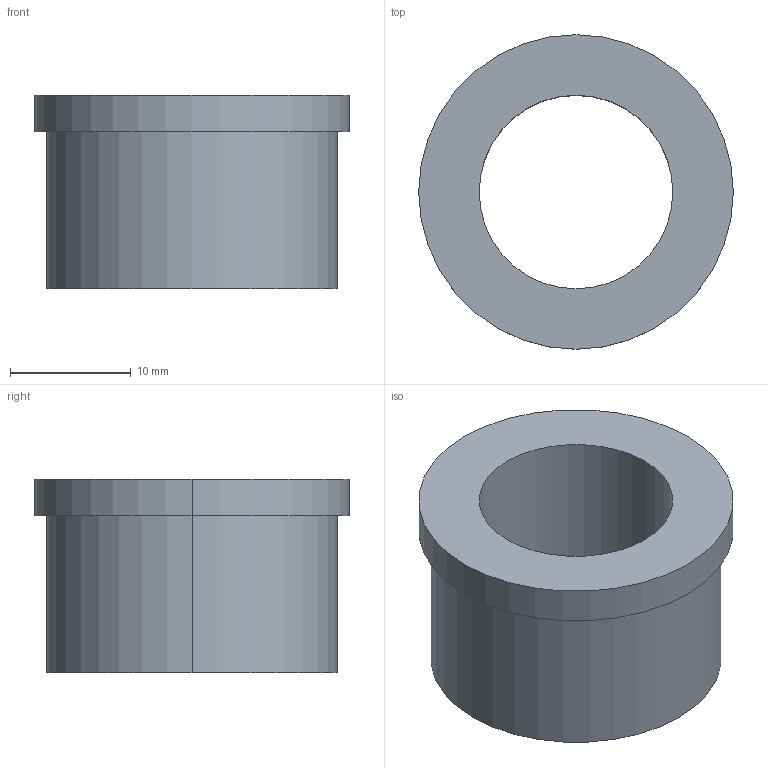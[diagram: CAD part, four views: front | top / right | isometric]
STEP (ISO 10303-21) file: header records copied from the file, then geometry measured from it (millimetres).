
FILE_DESCRIPTION(/* description */ (''),/* implementation_level */ '2;1');
FILE_NAME(/* name */ '3d_tghz16-16_00350_r00.stp',/* time_stamp */ '2011-01-10T14:09:01+09:00',/* author */ ('MISUMI'),/* organization */ (''),/* preprocessor_version */ 'ST-DEVELOPER v11',/* originating_system */ 'UGS - NX 5.0',/* authorisation */ '');
FILE_SCHEMA (('CONFIG_CONTROL_DESIGN'));
Length unit declared in the file: millimetre
Products named in the file (1): 3d_tghz16-16_00350_r00
Bounding box: 26 x 26 x 16 mm (x, y, z)
Volume: 4256.9 mm3; surface area: 2689.2 mm2
Topology: 1 solids, 1 shells, 9 faces, 18 edges, 12 vertices
Faces by surface type: cylinder 6, plane 3
Entity records: 334 total; most frequent: DIRECTION 50, CARTESIAN_POINT 40, ORIENTED_EDGE 36, AXIS2_PLACEMENT_3D 22, EDGE_CURVE 18, EDGE_LOOP 12, CIRCLE 12, VERTEX_POINT 12
